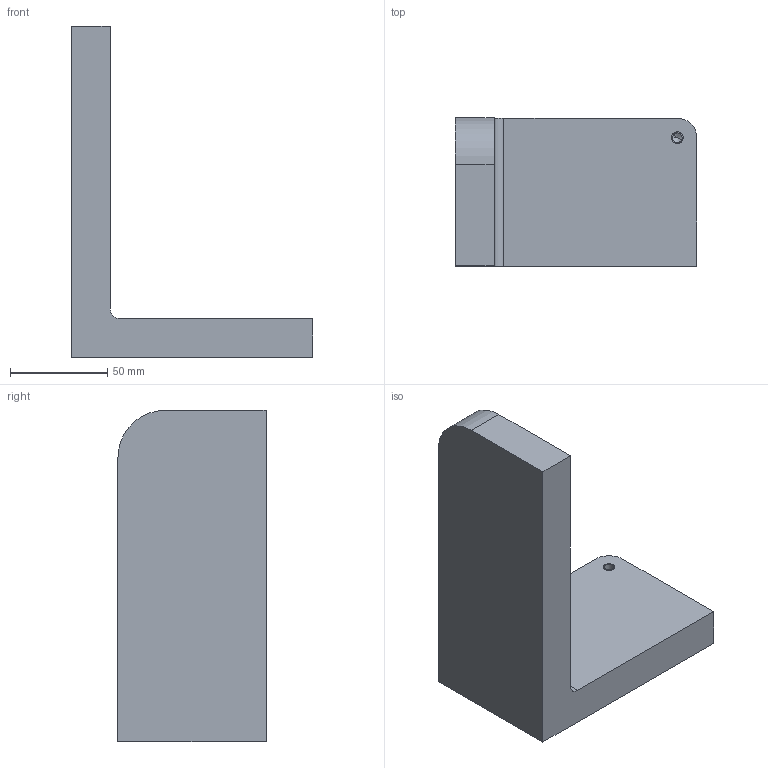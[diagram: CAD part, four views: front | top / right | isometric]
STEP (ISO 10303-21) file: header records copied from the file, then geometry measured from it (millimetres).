
FILE_DESCRIPTION(('CATIA V5 STEP Exchange'),'2;1');
FILE_NAME('C:\_Andres\UNIVERSIDAD\IQS\ASIGNATURAS\DAO\EXF\EXF-16172c\2inicio\Puig_Bataller_Ej01_v24.stp','2017-03-05T15:11:10+00:00',('none'),('none'),'CATIA Version 5-6 Release 2014 SP1 HF18','CATIA V5 STEP AP203','none');
FILE_SCHEMA(('CONFIG_CONTROL_DESIGN'));
Length unit declared in the file: millimetre
Products named in the file (1): Puig_Bataller_Ej01_v24
Bounding box: 124 x 76 x 170 mm (x, y, z)
Volume: 413673.5 mm3; surface area: 55389.9 mm2
Topology: 1 solids, 2 shells, 17 faces, 43 edges, 27 vertices
Faces by surface type: plane 8, cylinder 7, cone 2
Entity records: 513 total; most frequent: CARTESIAN_POINT 83, ORIENTED_EDGE 78, DIRECTION 69, EDGE_CURVE 41, AXIS2_PLACEMENT_3D 29, VECTOR 27, LINE 27, VERTEX_POINT 27
